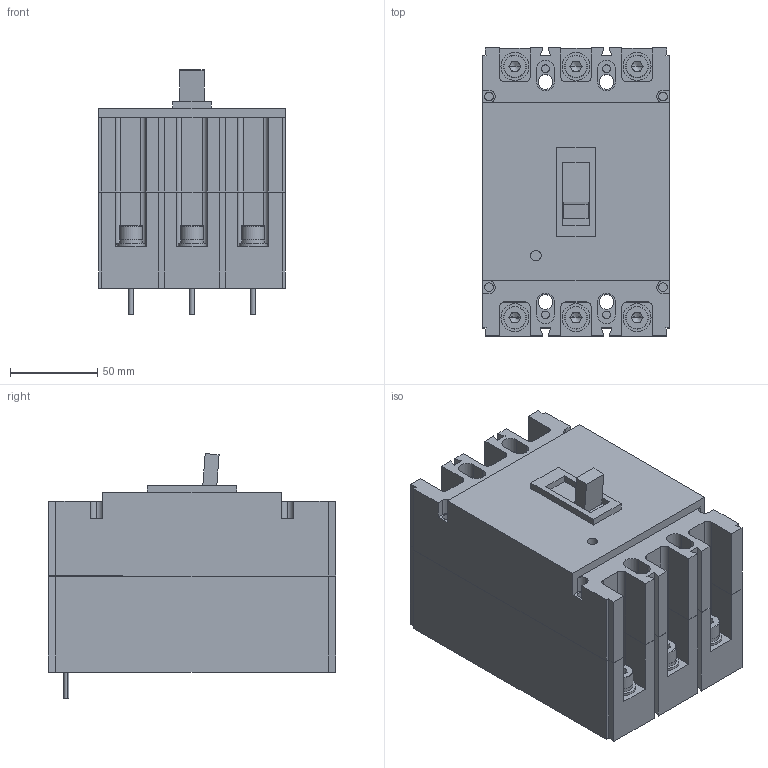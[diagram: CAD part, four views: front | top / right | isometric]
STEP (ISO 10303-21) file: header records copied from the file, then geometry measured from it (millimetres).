
FILE_DESCRIPTION (( 'STEP AP203' ), '1' );
FILE_NAME ('225-3P 剿繚ん.STEP', '2019-04-24T08:46:31', ( 'User' ), ( 'china' ), 'SwSTEP 2.0', 'SolidWorks 2011', '' );
FILE_SCHEMA (( 'CONFIG_CONTROL_DESIGN' ));
Length unit declared in the file: millimetre
Products named in the file (13): 225-3剿繚ん掛极; hexagon socket head cap screws gb_GB_FASTENER_SCREWS_HSHCS M8X20-C; spring lock washers--normal type gb_GB_FASTENER_WASHER_SW 8; 爾え4.2; 225-3P 剿繚ん; 絳盄1ㄗ酴ㄘ; 5YCC.516.011.2; 絳盄1ㄗ綻ㄘ; 5YCC.516.011.3; plain washers-n series-grade a gb_GB_FASTENER_WASHER_PWNA 8; GB9074 M8x20; 5YCC.516.011.1; 絳盄1ㄗ蟯ㄘ
Assembly tree (19 placements, depth 3):
  225-3P 剿繚ん
    GB9074 M8x20  x6
      plain washers-n series-grade a gb_GB_FASTENER_WASHER_PWNA 8
      hexagon socket head cap screws gb_GB_FASTENER_SCREWS_HSHCS M8X20-C
      spring lock washers--normal type gb_GB_FASTENER_WASHER_SW 8
    5YCC.516.011.2
      絳盄1ㄗ蟯ㄘ
      爾え4.2
    5YCC.516.011.1
      爾え4.2
      絳盄1ㄗ酴ㄘ
    5YCC.516.011.3
      絳盄1ㄗ綻ㄘ
      爾え4.2
    225-3剿繚ん掛极
Bounding box: 107 x 165 x 140.2 mm (x, y, z)
Volume: 1599022.3 mm3; surface area: 173648.2 mm2
Topology: 26 solids, 26 shells, 549 faces, 1356 edges, 878 vertices
Faces by surface type: plane 306, cylinder 207, cone 24, torus 12
Entity records: 11407 total; most frequent: DIRECTION 1754, CARTESIAN_POINT 1721, ORIENTED_EDGE 1644, EDGE_CURVE 822, AXIS2_PLACEMENT_3D 594, VECTOR 566, LINE 566, VERTEX_POINT 545
